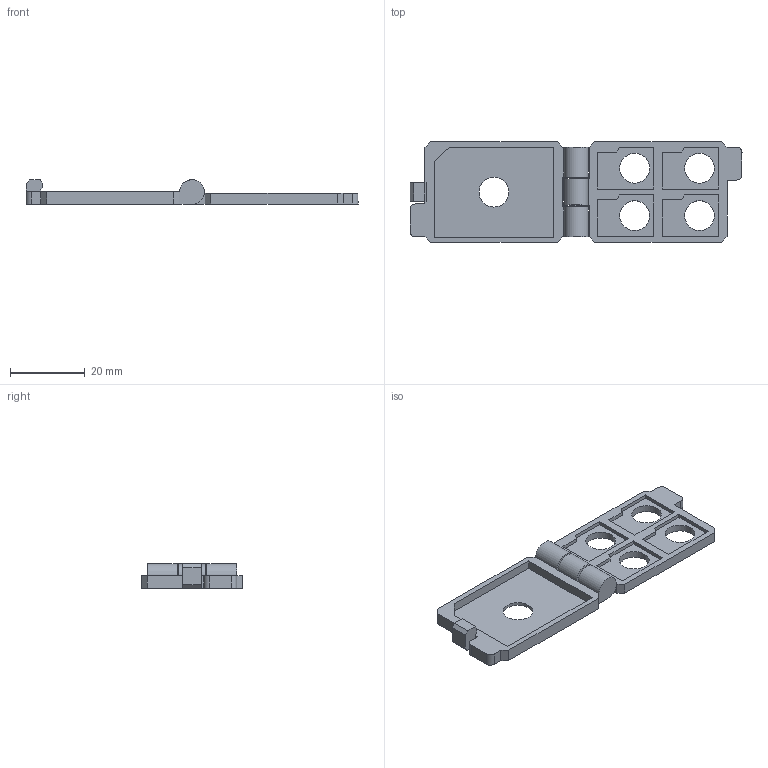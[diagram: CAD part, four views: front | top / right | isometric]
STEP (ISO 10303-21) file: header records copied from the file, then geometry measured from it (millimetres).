
FILE_DESCRIPTION(/* description */ (''),/* implementation_level */ '2;1');
FILE_NAME(/* name */ '/Users/cosmo/Google Drive/3d_printing/sd book/sd_card_wallet_print_in_place.step',/* time_stamp */ '2021-02-20T09:54:28-05:00',/* author */ (''),/* organization */ (''),/* preprocessor_version */ 'ST-DEVELOPER v18.1',/* originating_system */ 'Autodesk Translation Framework v9.7.0.1280',/* authorisation */ '');
FILE_SCHEMA (('AUTOMOTIVE_DESIGN { 1 0 10303 214 3 1 1 }'));
Length unit declared in the file: millimetre
Products named in the file (2): Minimal SD Card Wallet; sd side
Assembly tree (1 placements, depth 2):
  Minimal SD Card Wallet
    sd side
Bounding box: 88.97 x 27.02 x 6.6 mm (x, y, z)
Volume: 4497.9 mm3; surface area: 5958.5 mm2
Topology: 1 solids, 1 shells, 120 faces, 333 edges, 220 vertices
Faces by surface type: plane 106, cylinder 14
Full cylindrical faces by diameter (mm): 3 x1, 3.5 x1, 8 x5
Entity records: 3909 total; most frequent: CARTESIAN_POINT 676, ORIENTED_EDGE 666, DIRECTION 631, EDGE_CURVE 333, LINE 281, VECTOR 281, VERTEX_POINT 220, AXIS2_PLACEMENT_3D 175
